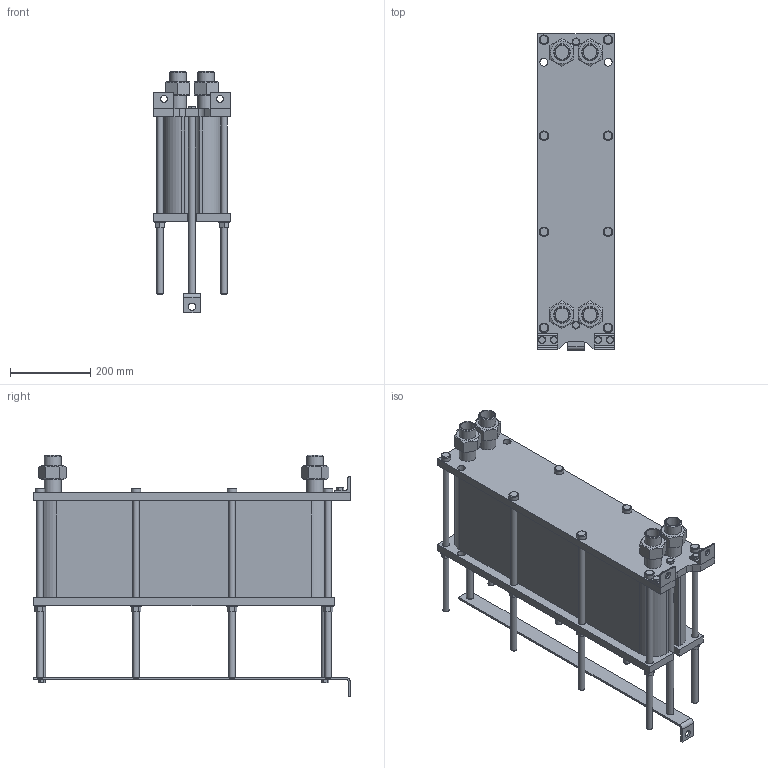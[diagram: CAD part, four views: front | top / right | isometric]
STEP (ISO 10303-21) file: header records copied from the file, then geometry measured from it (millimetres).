
FILE_DESCRIPTION(/* description */ (''),/* implementation_level */ '2;1');
FILE_NAME(/* name */ 'C:\Users\zhuro\Desktop\ENCO\TO\ЭН-008\ЭН-0,5-008-78-1.stp',/* time_stamp */ '2022-06-06T10:52:21+03:00',/* author */ ('zhuro'),/* organization */ (''),/* preprocessor_version */ 'ST-DEVELOPER v18.1',/* originating_system */ 'Autodesk Inventor 2022',/* authorisation */ '');
FILE_SCHEMA (('AUTOMOTIVE_DESIGN { 1 0 10303 214 3 1 1 }'));
Length unit declared in the file: millimetre
Products named in the file (1): ЭН-0,5-008-78-1
Bounding box: 190 x 790 x 603.4 mm (x, y, z)
Volume: 31526378 mm3; surface area: 1835430.5 mm2
Topology: 40 solids, 40 shells, 428 faces, 924 edges, 606 vertices
Faces by surface type: plane 273, cylinder 109, cone 40, torus 6
Full cylindrical faces by diameter (mm): 12 x6, 14 x2, 16 x20, 17 x8, 18 x19, 20 x5, 24 x8, 28 x8, 34.3 x8, 42.3 x8
Entity records: 15843 total; most frequent: CARTESIAN_POINT 5991, DIRECTION 1984, ORIENTED_EDGE 1848, EDGE_CURVE 924, AXIS2_PLACEMENT_3D 715, VERTEX_POINT 606, LINE 554, VECTOR 554
